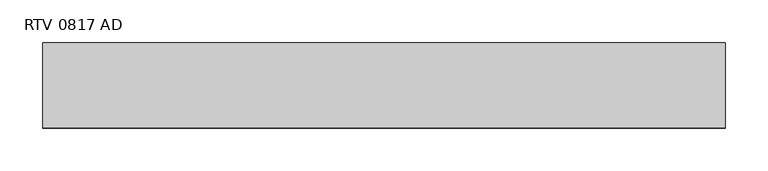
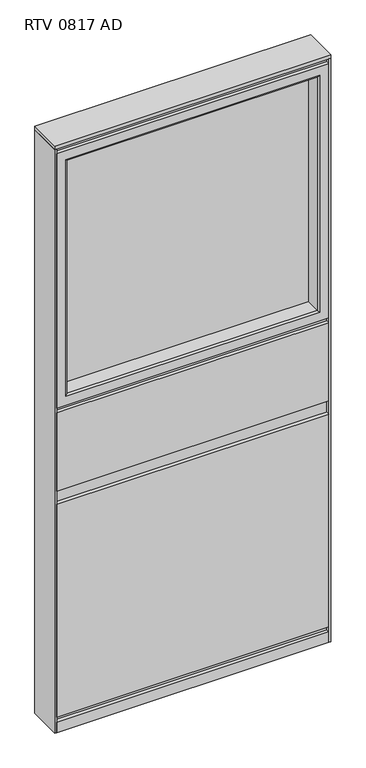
"""IFC4 building model written with IfcOpenShell, lengths in millimetres: furniture geometry, Mobiliário_MobiliáriodeEscritório_LinhaReasons_PainelMisto1800mm(Acesso02Lados)-Tecido_Marelli : RTV 0817 AD."""

from ifc_helpers import new_model, si_unit, frame, origin, origin_with_axes, place, context, project, spatial, polyline, ellipse_curve, outline, extrude, source, transform, mapped, element, save
from ifc_brep_helpers import plane_surface, cylinder_surface, advanced_brep


def rtv_0817_ad_a64ea4e4(model_context):
    return source(origin(), model_context, "Body", "SolidModel", [
        extrude(outline(polyline([(795.0, 100.0), (800.0, 100.0), (800.0, 0.0), (795.0, 0.0), (795.0, 100.0)])), origin_with_axes(), (0.0, 0.0, 1.0), 1789.0),
        extrude(outline(polyline([(800.0, 100.0), (800.0, 0.0), (0.0, 0.0), (0.0, 100.0), (800.0, 100.0)])), frame((0.0, 0.0, 1789.0), z_axis=(0.0, 0.0, 1.0), x_axis=(1.0, 0.0, 0.0)), (0.0, 0.0, 1.0), 11.0),
        extrude(outline(polyline([(5.0, 11.0), (5.0, 89.0), (795.0, 89.0), (795.0, 11.0), (5.0, 11.0)])), origin_with_axes(), (0.0, 0.0, 1.0), 995.0),
        extrude(outline(polyline([(795.0, 100.0), (795.0, 89.0), (5.0, 89.0), (5.0, 100.0), (795.0, 100.0)])), origin_with_axes(), (0.0, 0.0, 1.0), 32.0),
        extrude(outline(polyline([(795.0, 11.0), (795.0, 0.0), (5.0, 0.0), (5.0, 11.0), (795.0, 11.0)])), origin_with_axes(), (0.0, 0.0, 1.0), 32.0),
        extrude(outline(polyline([(795.0, 11.0), (795.0, 0.0), (5.0, 0.0), (5.0, 11.0), (795.0, 11.0)])), frame((0.0, 0.0, 47.0), z_axis=(0.0, 0.0, 1.0), x_axis=(1.0, 0.0, 0.0)), (0.0, 0.0, 1.0), 653.0),
        extrude(outline(polyline([(795.0, 11.0), (795.0, 0.0), (5.0, 0.0), (5.0, 11.0), (795.0, 11.0)])), frame((0.0, 0.0, 740.0), z_axis=(0.0, 0.0, 1.0), x_axis=(1.0, 0.0, 0.0)), (0.0, 0.0, 1.0), 240.0),
        extrude(outline(polyline([(795.0, 100.0), (795.0, 89.0), (5.0, 89.0), (5.0, 100.0), (795.0, 100.0)])), frame((0.0, 0.0, 47.0), z_axis=(0.0, 0.0, 1.0), x_axis=(1.0, 0.0, 0.0)), (0.0, 0.0, 1.0), 653.0),
        extrude(outline(polyline([(795.0, 100.0), (795.0, 89.0), (5.0, 89.0), (5.0, 100.0), (795.0, 100.0)])), frame((0.0, 0.0, 740.0), z_axis=(0.0, 0.0, 1.0), x_axis=(1.0, 0.0, 0.0)), (0.0, 0.0, 1.0), 240.0),
        extrude(outline(polyline([(0.0, 100.0), (5.0, 100.0), (5.0, 0.0), (0.0, 0.0), (0.0, 100.0)])), origin_with_axes(), (0.0, 0.0, 1.0), 1789.0),
        advanced_brep(
        [(763.5, 5.0, 1742.5), (763.5, 95.0, 1742.5), (763.5, 95.0, 1026.5), (763.5, 5.0, 1026.5), (795.0, 100.0, 1774.0), (795.0, 0.0, 1774.0), (795.0, 0.0, 995.0), (795.0, 100.0, 995.0), (36.5, 95.0, 1026.5), (36.5, 5.0, 1026.5), (5.0, 0.0, 995.0), (5.0, 100.0, 995.0), (36.5, 95.0, 1742.5), (36.5, 5.0, 1742.5), (5.0, 0.0, 1774.0), (5.0, 100.0, 1774.0), (768.5, 100.0, 1747.5), (31.5, 100.0, 1747.5), (31.5, 100.0, 1021.5), (768.5, 100.0, 1021.5), (768.5, 0.0, 1021.5), (31.5, 0.0, 1021.5), (31.5, 0.0, 1747.5), (768.5, 0.0, 1747.5)],
        [
            (0, 1),
            (1, 2),
            (2, 3),
            (3, 0),
            (4, 5),
            (5, 6),
            (6, 7),
            (7, 4),
            (2, 8),
            (8, 9),
            (9, 3),
            (6, 10),
            (10, 11),
            (11, 7),
            (8, 12),
            (12, 13),
            (13, 9),
            (10, 14),
            (14, 15),
            (15, 11),
            (15, 4),
            (16, 17),
            (17, 18),
            (18, 19),
            (19, 16),
            (12, 1),
            (0, 13),
            (5, 14),
            (20, 21),
            (21, 22),
            (22, 23),
            (23, 20),
            (1, 16, ellipse_curve(frame((768.5, 95.0, 1747.5), z_axis=(0.7071067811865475, 0.0, -0.7071067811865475), x_axis=(0.7071067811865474, 0.0, 0.7071067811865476)), 7.0710678, 5.0)),
            (19, 2, ellipse_curve(frame((768.5, 95.0, 1021.5), z_axis=(0.7071067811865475, 0.0, 0.7071067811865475), x_axis=(-0.7071067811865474, 0.0, 0.7071067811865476)), 7.0710678, 5.0)),
            (23, 0, ellipse_curve(frame((768.5, 5.0, 1747.5), z_axis=(0.7071067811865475, 0.0, -0.7071067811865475), x_axis=(0.7071067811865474, 0.0, 0.7071067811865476)), 7.0710678, 5.0)),
            (3, 20, ellipse_curve(frame((768.5, 5.0, 1021.5), z_axis=(0.7071067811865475, 0.0, 0.7071067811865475), x_axis=(-0.7071067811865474, 0.0, 0.7071067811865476)), 7.0710678, 5.0)),
            (18, 8, ellipse_curve(frame((31.5, 95.0, 1021.5), z_axis=(0.7071067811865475, 0.0, -0.7071067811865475), x_axis=(0.7071067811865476, 0.0, 0.7071067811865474)), 7.0710678, 5.0)),
            (9, 21, ellipse_curve(frame((31.5, 5.0, 1021.5), z_axis=(0.7071067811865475, 0.0, -0.7071067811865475), x_axis=(0.7071067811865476, 0.0, 0.7071067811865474)), 7.0710678, 5.0)),
            (17, 12, ellipse_curve(frame((31.5, 95.0, 1747.5), z_axis=(-0.7071067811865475, 0.0, -0.7071067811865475), x_axis=(0.7071067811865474, 0.0, -0.7071067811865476)), 7.0710678, 5.0)),
            (13, 22, ellipse_curve(frame((31.5, 5.0, 1747.5), z_axis=(-0.7071067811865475, 0.0, -0.7071067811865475), x_axis=(0.7071067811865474, 0.0, -0.7071067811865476)), 7.0710678, 5.0)),
        ],
        [
            plane_surface(frame((763.5, 95.0, 1742.5), z_axis=(-1.0, 0.0, 0.0), x_axis=(0.0, 0.0, -1.0))),
            plane_surface(frame((795.0, 0.0, 1774.0), z_axis=(1.0, 0.0, 0.0), x_axis=(0.0, 0.0, -1.0))),
            plane_surface(frame((763.5, 95.0, 1026.5), z_axis=(0.0, 0.0, 1.0), x_axis=(-1.0, 0.0, 0.0))),
            plane_surface(frame((795.0, 0.0, 995.0), z_axis=(0.0, 0.0, -1.0), x_axis=(-1.0, 0.0, 0.0))),
            plane_surface(frame((36.5, 95.0, 1026.5), z_axis=(1.0, 0.0, 0.0), x_axis=(0.0, 0.0, 1.0))),
            plane_surface(frame((5.0, 0.0, 995.0), z_axis=(-1.0, 0.0, 0.0), x_axis=(0.0, 0.0, 1.0))),
            plane_surface(frame((5.0, 100.0, 1774.0), z_axis=(0.0, 1.0, 0.0), x_axis=(1.0, 0.0, 0.0))),
            plane_surface(frame((36.5, 95.0, 1742.5), z_axis=(0.0, 0.0, -1.0), x_axis=(1.0, 0.0, 0.0))),
            plane_surface(frame((31.5, 0.0, 1747.5), z_axis=(0.0, -1.0, 0.0), x_axis=(1.0, 0.0, 0.0))),
            plane_surface(frame((5.0, 0.0, 1774.0), z_axis=(0.0, 0.0, 1.0), x_axis=(1.0, 0.0, 0.0))),
            cylinder_surface(frame((768.5, 95.0, 1774.0), z_axis=(0.0, 0.0, 1.0), x_axis=(1.0, 0.0, 0.0)), 5.0),
            cylinder_surface(frame((768.5, 5.0, 1774.0), z_axis=(0.0, 0.0, 1.0), x_axis=(1.0, 0.0, 0.0)), 5.0),
            cylinder_surface(frame((795.0, 95.0, 1021.5), z_axis=(1.0, 0.0, 0.0), x_axis=(0.0, 0.0, -1.0)), 5.0),
            cylinder_surface(frame((795.0, 5.0, 1021.5), z_axis=(1.0, 0.0, 0.0), x_axis=(0.0, 0.0, -1.0)), 5.0),
            cylinder_surface(frame((31.5, 95.0, 995.0), z_axis=(0.0, 0.0, -1.0), x_axis=(-1.0, 0.0, 0.0)), 5.0),
            cylinder_surface(frame((31.5, 5.0, 995.0), z_axis=(0.0, 0.0, -1.0), x_axis=(-1.0, 0.0, 0.0)), 5.0),
            cylinder_surface(frame((5.0, 95.0, 1747.5), z_axis=(-1.0, 0.0, 0.0), x_axis=(0.0, 0.0, 1.0)), 5.0),
            cylinder_surface(frame((5.0, 5.0, 1747.5), z_axis=(-1.0, 0.0, 0.0), x_axis=(0.0, 0.0, 1.0)), 5.0),
        ],
        [
            (0, [[1, 2, 3, 4]]),
            (1, [[5, 6, 7, 8]]),
            (2, [[-3, 9, 10, 11]]),
            (3, [[-7, 12, 13, 14]]),
            (4, [[-10, 15, 16, 17]]),
            (5, [[-13, 18, 19, 20]]),
            (6, [[-14, -20, 21, -8], [22, 23, 24, 25]]),
            (7, [[-16, 26, -1, 27]]),
            (8, [[28, -18, -12, -6], [29, 30, 31, 32]]),
            (9, [[-19, -28, -5, -21]]),
            (10, [[33, -25, 34, -2]]),
            (11, [[35, -4, 36, -32]]),
            (12, [[-34, -24, 37, -9]]),
            (13, [[-36, -11, 38, -29]]),
            (14, [[-37, -23, 39, -15]]),
            (15, [[-38, -17, 40, -30]]),
            (16, [[-39, -22, -33, -26]]),
            (17, [[-40, -27, -35, -31]]),
        ],
    ),
        extrude(outline(polyline([(5.0, 11.0), (5.0, 89.0), (795.0, 89.0), (795.0, 11.0), (5.0, 11.0)])), frame((0.0, 0.0, 1774.0), z_axis=(0.0, 0.0, 1.0), x_axis=(1.0, 0.0, 0.0)), (0.0, 0.0, 1.0), 15.0),
        extrude(outline(polyline([(763.5, 52.0), (763.5, 48.0), (36.5677845, 48.0), (36.5677845, 52.0), (763.5, 52.0)])), frame((0.0, 0.0, 1026.5), z_axis=(0.0, 0.0, 1.0), x_axis=(1.0, 0.0, 0.0)), (0.0, 0.0, 1.0), 716.0),
    ])


if __name__ == "__main__":
    model = new_model("IFC4")
    model_context = context("Model", 3, world=origin())
    ifc_project = project(units=[si_unit("LENGTHUNIT", "METRE", prefix="MILLI")], contexts=[model_context])
    site = spatial("IfcSite", under=ifc_project)
    building = spatial("IfcBuilding", under=site)
    placement = place(None, origin())
    rtv_0817_ad_shape = rtv_0817_ad_a64ea4e4(model_context)
    element("IfcFurniture", 1, ObjectType="Mobiliário_MobiliáriodeEscritório_LinhaReasons_PainelMisto1800mm(Acesso02Lados)-Tecido_Marelli : RTV 0817 AD", at=placement, inside=building, context=model_context, shape_type="MappedRepresentation", body=[
        mapped(rtv_0817_ad_shape, transform((0.0, 0.0, 0.0), x_axis=(1.0, 0.0, 0.0), y_axis=(0.0, 1.0, 0.0), z_axis=(0.0, 0.0, 1.0))),
    ])
    save(model, "model.ifc")
